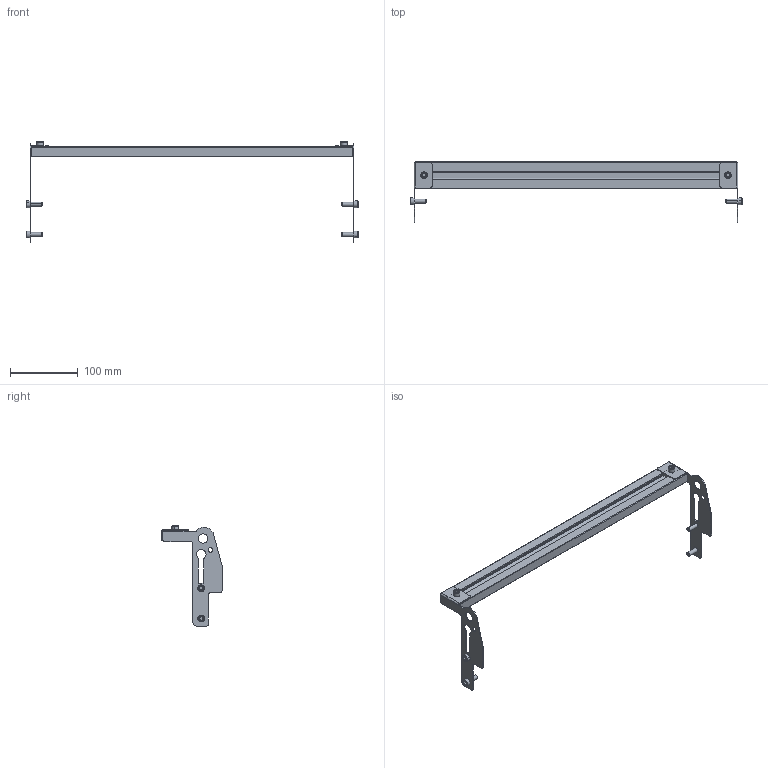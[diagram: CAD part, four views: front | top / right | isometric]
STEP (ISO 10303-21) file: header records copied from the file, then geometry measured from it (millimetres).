
FILE_DESCRIPTION((''),'2;1');
FILE_NAME('207213-18_ASM','2016-08-09T',('adam.dellomodarme'),(''),'PRO/ENGINEER BY PARAMETRIC TECHNOLOGY CORPORATION, 2012420','PRO/ENGINEER BY PARAMETRIC TECHNOLOGY CORPORATION, 2012420','');
FILE_SCHEMA(('CONFIG_CONTROL_DESIGN'));
Length unit declared in the file: inch
Products named in the file (8): 9206XXM_920618M; 207130-LH; 207216-WW_207216-18; 9206XXM_920612M; 834-019; 207130-RH; ASM0001_ASM; 207213-18_ASM
Assembly tree (12 placements, depth 3):
  207213-18_ASM
    ASM0001_ASM
      9206XXM_920618M  x4
      207130-LH
      207216-WW_207216-18
      9206XXM_920612M  x2
      834-019  x2
      207130-RH
Bounding box: 488.55 x 88.64 x 147.81 mm (x, y, z)
Volume: 152604.3 mm3; surface area: 142190.6 mm2
Topology: 11 solids, 11 shells, 344 faces, 843 edges, 533 vertices
Faces by surface type: plane 146, cylinder 132, cone 66
Entity records: 7875 total; most frequent: CARTESIAN_POINT 1498, DIRECTION 1380, ORIENTED_EDGE 1258, EDGE_CURVE 629, AXIS2_PLACEMENT_3D 516, VERTEX_POINT 409, VECTOR 348, LINE 348
